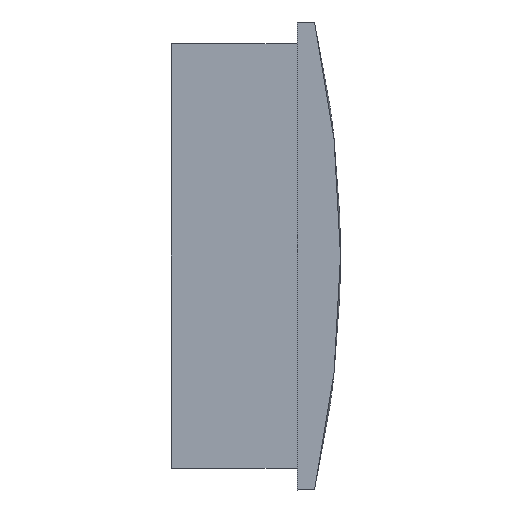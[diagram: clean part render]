
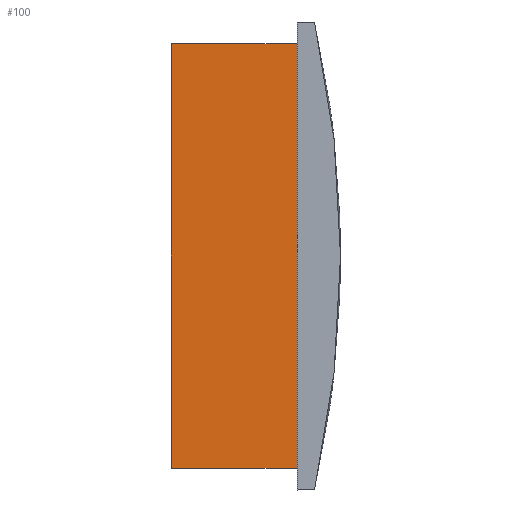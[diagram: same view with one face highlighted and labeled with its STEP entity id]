
A CAD part, left-side view. The second image highlights one B-rep face of the part: STEP entity #100.
In plain terms, the highlighted planar face has unit normal (-1, 0, 0).
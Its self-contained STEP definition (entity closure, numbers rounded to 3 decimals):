
#100 = ADVANCED_FACE( '', ( #156 ), #157, .F. );
#156 = FACE_OUTER_BOUND( '', #212, .T. );
#157 = PLANE( '', #213 );
#212 = EDGE_LOOP( '', ( #405, #406, #407, #408 ) );
#213 = AXIS2_PLACEMENT_3D( '', #409, #410, #411 );
#405 = ORIENTED_EDGE( '', *, *, #455, .F. );
#406 = ORIENTED_EDGE( '', *, *, #466, .F. );
#407 = ORIENTED_EDGE( '', *, *, #469, .F. );
#408 = ORIENTED_EDGE( '', *, *, #471, .F. );
#409 = CARTESIAN_POINT( '', ( -7., 0., 0. ) );
#410 = DIRECTION( '', ( 1., 0., 0. ) );
#411 = DIRECTION( '', ( 0., 0., -1. ) );
#455 = EDGE_CURVE( '', #545, #540, #547, .T. );
#466 = EDGE_CURVE( '', #562, #545, #564, .T. );
#469 = EDGE_CURVE( '', #567, #562, #569, .T. );
#471 = EDGE_CURVE( '', #540, #567, #571, .T. );
#540 = VERTEX_POINT( '', #730 );
#545 = VERTEX_POINT( '', #737 );
#547 = LINE( '', #740, #741 );
#562 = VERTEX_POINT( '', #763 );
#564 = LINE( '', #766, #767 );
#567 = VERTEX_POINT( '', #771 );
#569 = LINE( '', #774, #775 );
#571 = LINE( '', #778, #779 );
#730 = CARTESIAN_POINT( '', ( -7., -14.5, -42. ) );
#737 = CARTESIAN_POINT( '', ( -7., -14.5, 7. ) );
#740 = CARTESIAN_POINT( '', ( -7., -14.5, 7. ) );
#741 = VECTOR( '', #847, 1. );
#763 = CARTESIAN_POINT( '', ( -7., 0., 7. ) );
#766 = CARTESIAN_POINT( '', ( -7., 0., 7. ) );
#767 = VECTOR( '', #862, 1. );
#771 = CARTESIAN_POINT( '', ( -7., 0., -42. ) );
#774 = CARTESIAN_POINT( '', ( -7., 0., -42. ) );
#775 = VECTOR( '', #865, 1. );
#778 = CARTESIAN_POINT( '', ( -7., -14.5, -42. ) );
#779 = VECTOR( '', #867, 1. );
#847 = DIRECTION( '', ( 0., 0., -1. ) );
#862 = DIRECTION( '', ( 0., -1., 0. ) );
#865 = DIRECTION( '', ( 0., 0., 1. ) );
#867 = DIRECTION( '', ( 0., 1., 0. ) );
